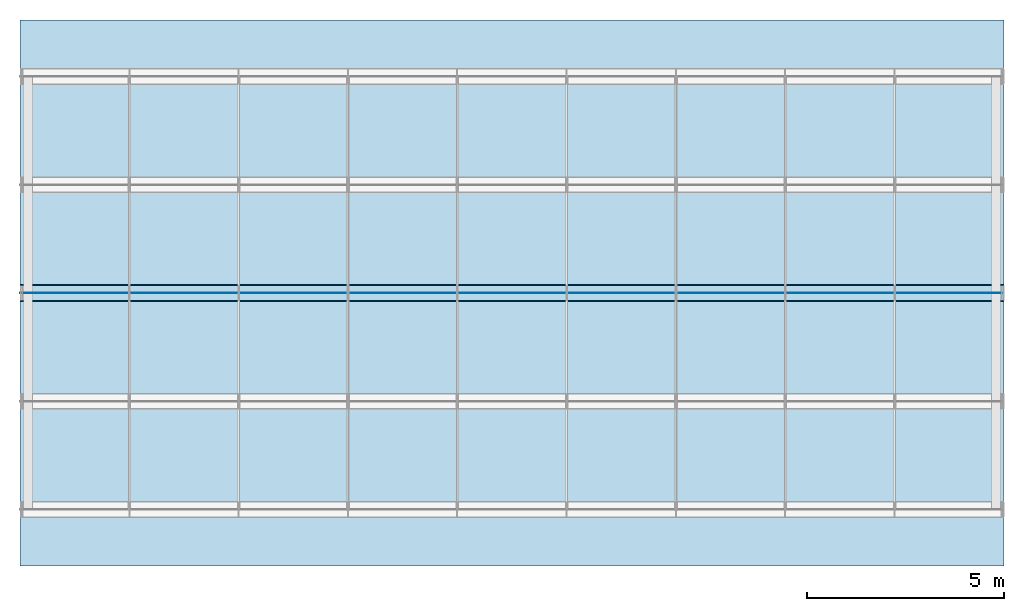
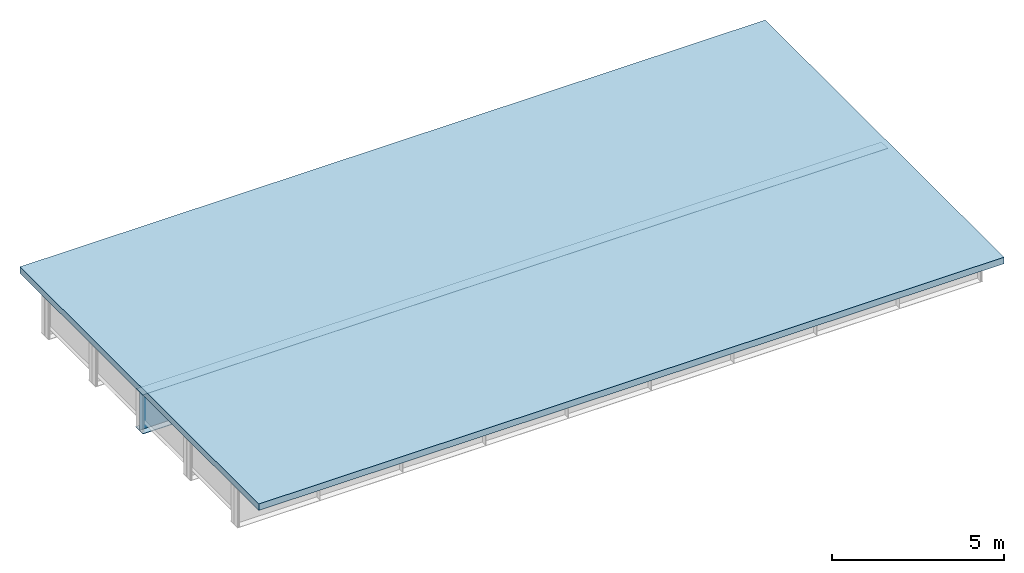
# One storey, part 8 of 13: 3 plates, 1 slab.
"""IFC4 building model written with IfcOpenShell, lengths in metres."""

from ifc_helpers import new_model, si_unit, frame, origin, origin_with_axes, origin_2d_with_axis, place, context, subcontext, project, spatial, polyline, rectangle, outline, extrude, element, save


model = new_model("IFC4")

# Units and contexts
model_context = context("Model", 3, precision=1e-05, world=origin())
body_context = subcontext(model_context, "Body", "Model", "MODEL_VIEW")
ifc_project = project(units=[si_unit("LENGTHUNIT", "METRE"), si_unit("AREAUNIT", "SQUARE_METRE"), si_unit("VOLUMEUNIT", "CUBIC_METRE"), si_unit("PLANEANGLEUNIT", "RADIAN")], contexts=[model_context])

# Site, building, storey
site_placement = place(None, origin_with_axes())
site = spatial("IfcSite", under=ifc_project, at=site_placement, Name="Default Site")
building_placement = place(site_placement, origin_with_axes())
building = spatial("IfcBuilding", under=site, at=building_placement, Name="Bridge Structure")
storey_placement = place(building_placement, origin_with_axes())
storey = spatial("IfcBuildingStorey", under=building, at=storey_placement, Name="Superstructure")

# Plates
plate_1_placement = place(storey_placement, frame((0.0, 0.0, 0.0), z_axis=(1.0, 0.0, 0.0), x_axis=(0.0, 1.0, 0.0)))
element("IfcPlate", 1, at=plate_1_placement, inside=storey, Name="Girder Web 3", context=body_context, shape_type="SweptSolid", body=[
    extrude(rectangle(XDim=0.012, YDim=1.339, at=origin_2d_with_axis()), origin_with_axes(), (0.0, 0.0, 1.0), 25.0),
])
plate_2_placement = place(storey_placement, frame((0.0, 0.0, 0.6775), z_axis=(1.0, 0.0, 0.0), x_axis=(0.0, 1.0, 0.0)))
element("IfcPlate", 2, at=plate_2_placement, inside=storey, Name="Top Flange 3", context=body_context, shape_type="SweptSolid", body=[
    extrude(rectangle(XDim=0.375, YDim=0.016, at=origin_2d_with_axis()), origin_with_axes(), (0.0, 0.0, 1.0), 25.0),
])
plate_3_placement = place(storey_placement, frame((0.0, 0.0, -0.6795), z_axis=(1.0, 0.0, 0.0), x_axis=(0.0, 1.0, 0.0)))
element("IfcPlate", 3, at=plate_3_placement, inside=storey, Name="Bottom Flange 3", context=body_context, shape_type="SweptSolid", body=[
    extrude(rectangle(XDim=0.425, YDim=0.02, at=origin_2d_with_axis()), origin_with_axes(), (0.0, 0.0, 1.0), 25.0),
])

# Slab
slab_placement = place(storey_placement, frame((0.0, 0.0, 0.6855), z_axis=(0.0, 0.0, 1.0), x_axis=(1.0, 0.0, 0.0)))
element("IfcSlab", 4, at=slab_placement, inside=storey, Name="Deck Slab", context=body_context, shape_type="SweptSolid", body=[
    extrude(outline(polyline([(0.0, -6.9375), (25.0, -6.9375), (25.0, 6.9375), (0.0, 6.9375), (0.0, -6.9375)])), origin_with_axes(), (0.0, 0.0, 1.0), 0.23),
])

save(model, "model.ifc")
